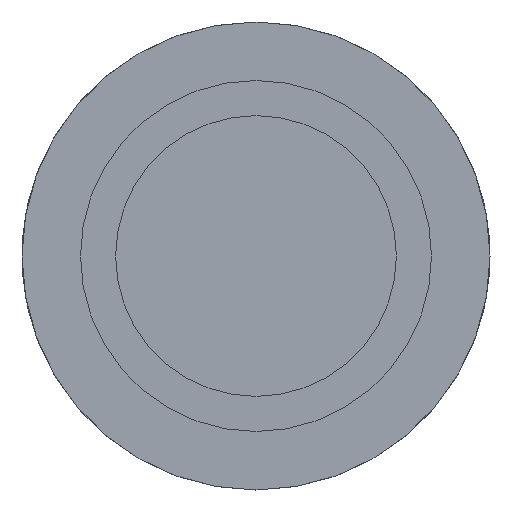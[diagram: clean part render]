
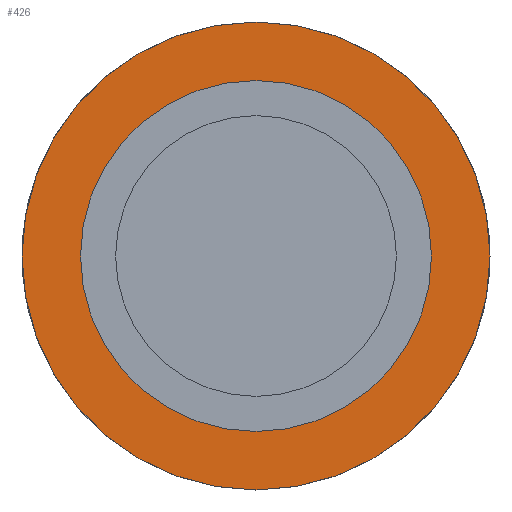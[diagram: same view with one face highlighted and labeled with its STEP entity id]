
A CAD part, left-side view. The second image highlights one B-rep face of the part: STEP entity #426.
In plain terms, the highlighted planar face has unit normal (-1, 0, 0).
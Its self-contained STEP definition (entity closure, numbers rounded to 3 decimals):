
#395=CARTESIAN_POINT('',(60.,0.0,10.));
#396=VERTEX_POINT('',#395);
#397=CARTESIAN_POINT('',(60.0,0.0,0.));
#398=DIRECTION('',(-1.0,0.0,0.0));
#399=DIRECTION('',(0.0,0.0,1.0));
#400=AXIS2_PLACEMENT_3D('',#397,#398,#399);
#401=CIRCLE('',#400,10.);
#402=EDGE_CURVE('',#396,#396,#401,.T.);
#407=CARTESIAN_POINT('',(60.,0.0,8.75));
#408=DIRECTION('',(-1.0,0.0,0.0));
#409=DIRECTION('',(0.0,0.0,1.0));
#410=AXIS2_PLACEMENT_3D('',#407,#408,#409);
#411=PLANE('',#410);
#412=ORIENTED_EDGE('',*,*,#402,.T.);
#413=EDGE_LOOP('',(#412));
#414=FACE_OUTER_BOUND('',#413,.T.);
#415=CARTESIAN_POINT('',(60.,0.0,7.5));
#416=VERTEX_POINT('',#415);
#417=CARTESIAN_POINT('',(60.0,0.0,0.));
#418=DIRECTION('',(-1.0,0.0,0.0));
#419=DIRECTION('',(0.0,0.0,1.0));
#420=AXIS2_PLACEMENT_3D('',#417,#418,#419);
#421=CIRCLE('',#420,7.5);
#422=EDGE_CURVE('',#416,#416,#421,.T.);
#423=ORIENTED_EDGE('',*,*,#422,.F.);
#424=EDGE_LOOP('',(#423));
#425=FACE_BOUND('',#424,.T.);
#426=ADVANCED_FACE('',(#414,#425),#411,.T.);
